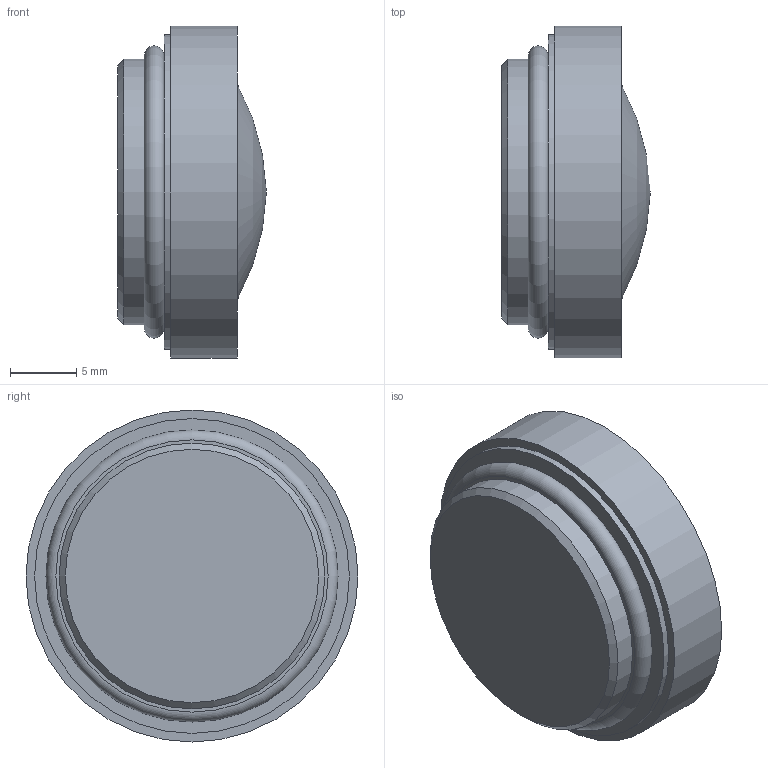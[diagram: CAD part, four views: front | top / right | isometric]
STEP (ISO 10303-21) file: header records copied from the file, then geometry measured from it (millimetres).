
FILE_DESCRIPTION(/* description */ ('Unknown'),/* implementation_level */ '2;1');
FILE_NAME(/* name */ 'ZLENS-OCS.9MM',/* time_stamp */ '2020-03-27T09:46:53+01:00',/* author */ ('Unknown'),/* organization */ ('Unknown'),/* preprocessor_version */ 'ST-DEVELOPER v16.7',/* originating_system */ 'DEX',/* authorisation */ $);
FILE_SCHEMA (('AUTOMOTIVE_DESIGN { 1 0 10303 214 3 1 1 }','AUTOMOTIVE_DESIGN {1 0 10303 214 3 1 1}'));
Length unit declared in the file: millimetre
Products named in the file (1): ZLENS-OCS.9MM
Bounding box: 11.2 x 25 x 25 mm (x, y, z)
Volume: 4075.9 mm3; surface area: 1693.1 mm2
Topology: 1 solids, 1 shells, 11 faces, 18 edges, 12 vertices
Faces by surface type: plane 5, cylinder 3, torus 2, cone 1
Full cylindrical faces by diameter (mm): 20 x1, 23.7 x1, 25 x1
Entity records: 248 total; most frequent: DIRECTION 44, CARTESIAN_POINT 33, AXIS2_PLACEMENT_3D 22, FACE_BOUND 21, ORIENTED_EDGE 20, EDGE_LOOP 20, VERTEX_POINT 11, ADVANCED_FACE 11
